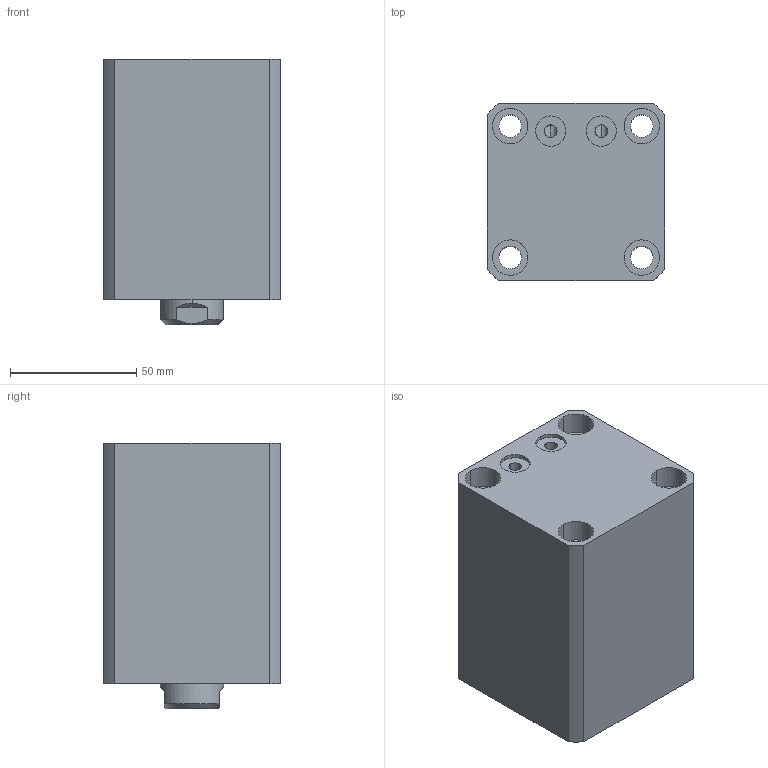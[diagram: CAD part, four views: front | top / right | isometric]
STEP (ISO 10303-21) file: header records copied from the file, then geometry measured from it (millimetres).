
FILE_DESCRIPTION (( 'STEP AP214' ), '1' );
FILE_NAME ('chtb-sdmb40x40n_asm.STEP', '2018-06-07T03:23:20', ( 'Windows' ), ( 'Microsoft' ), 'SwSTEP 2.0', 'SolidWorks 2015', '' );
FILE_SCHEMA (( 'AUTOMOTIVE_DESIGN' ));
Length unit declared in the file: millimetre
Products named in the file (4): CHTB-SDMB40X40NBT; CHTB-SD40X40NHSG; CHTB-SD40QG; chtb-sdmb40x40n_asm
Assembly tree (3 placements, depth 2):
  chtb-sdmb40x40n_asm
    CHTB-SD40QG
    CHTB-SD40X40NHSG
    CHTB-SDMB40X40NBT
Bounding box: 70 x 70 x 105 mm (x, y, z)
Volume: 393582.8 mm3; surface area: 83362.6 mm2
Topology: 3 solids, 3 shells, 155 faces, 407 edges, 270 vertices
Faces by surface type: cylinder 84, plane 34, bspline 14, torus 14, cone 9
Entity records: 10007 total; most frequent: CARTESIAN_POINT 6085, ORIENTED_EDGE 802, DIRECTION 758, EDGE_CURVE 401, AXIS2_PLACEMENT_3D 322, VERTEX_POINT 270, EDGE_LOOP 191, CIRCLE 175
